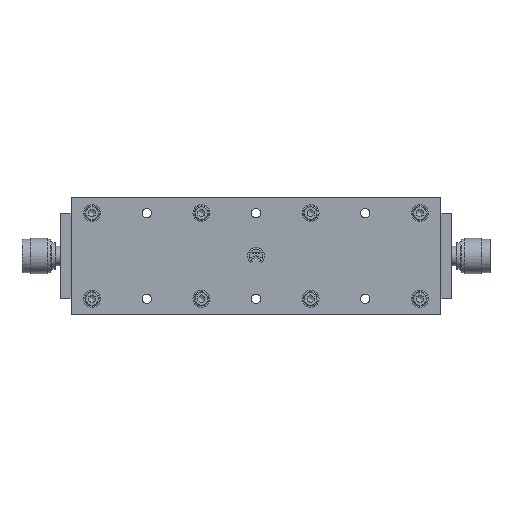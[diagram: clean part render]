
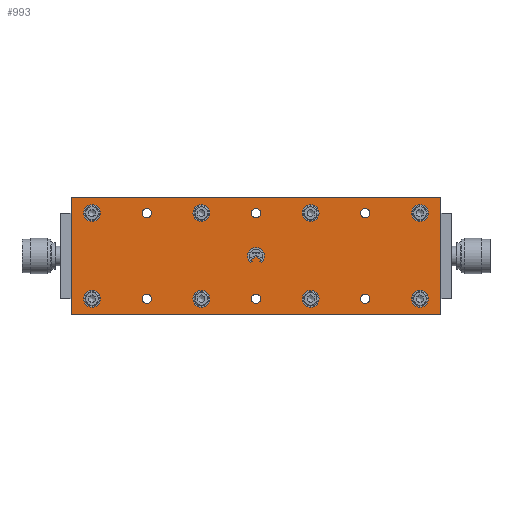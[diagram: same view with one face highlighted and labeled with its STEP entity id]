
A CAD part, top view. The second image highlights one B-rep face of the part: STEP entity #993.
In plain terms, the highlighted planar face has unit normal (0, 0, 1).
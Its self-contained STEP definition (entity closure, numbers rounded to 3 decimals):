
#993=ADVANCED_FACE('',(#2012,#2014,#2016,#2018,#2020,#2022,#2024,#2026,#2028,#2030,
#2032,#2034,#2036,#2038,#2040,#2042),#2044,.T.);
#2012=FACE_BOUND('',#2013,.T.);
#2013=EDGE_LOOP('',(#4179,#4180,#4181,#4182));
#2014=FACE_BOUND('',#2015,.T.);
#2015=EDGE_LOOP('',(#4183,#4184,#4185,#4186,#4187,#4188,#4189));
#2016=FACE_BOUND('',#2017,.T.);
#2017=EDGE_LOOP('',(#4190));
#2018=FACE_BOUND('',#2019,.T.);
#2019=EDGE_LOOP('',(#4191));
#2020=FACE_BOUND('',#2021,.T.);
#2021=EDGE_LOOP('',(#4192));
#2022=FACE_BOUND('',#2023,.T.);
#2023=EDGE_LOOP('',(#4193));
#2024=FACE_BOUND('',#2025,.T.);
#2025=EDGE_LOOP('',(#4194));
#2026=FACE_BOUND('',#2027,.T.);
#2027=EDGE_LOOP('',(#4195));
#2028=FACE_BOUND('',#2029,.T.);
#2029=EDGE_LOOP('',(#4196));
#2030=FACE_BOUND('',#2031,.T.);
#2031=EDGE_LOOP('',(#4197));
#2032=FACE_BOUND('',#2033,.T.);
#2033=EDGE_LOOP('',(#4198));
#2034=FACE_BOUND('',#2035,.T.);
#2035=EDGE_LOOP('',(#4199));
#2036=FACE_BOUND('',#2037,.T.);
#2037=EDGE_LOOP('',(#4200));
#2038=FACE_BOUND('',#2039,.T.);
#2039=EDGE_LOOP('',(#4201));
#2040=FACE_BOUND('',#2041,.T.);
#2041=EDGE_LOOP('',(#4202));
#2042=FACE_BOUND('',#2043,.T.);
#2043=EDGE_LOOP('',(#4203));
#2044=PLANE('',#2045);
#2045=AXIS2_PLACEMENT_3D('',#2046,#2047,#2048);
#2046=CARTESIAN_POINT('',(-35.,-110.,12.5));
#2047=DIRECTION('',(0.,0.,1.));
#2048=DIRECTION('',(1.,0.,0.));
#4179=ORIENTED_EDGE('',*,*,#4960,.F.);
#4180=ORIENTED_EDGE('',*,*,#4961,.T.);
#4181=ORIENTED_EDGE('',*,*,#4962,.T.);
#4182=ORIENTED_EDGE('',*,*,#4963,.F.);
#4183=ORIENTED_EDGE('',*,*,#4964,.T.);
#4184=ORIENTED_EDGE('',*,*,#4965,.T.);
#4185=ORIENTED_EDGE('',*,*,#4966,.T.);
#4186=ORIENTED_EDGE('',*,*,#4967,.T.);
#4187=ORIENTED_EDGE('',*,*,#4968,.T.);
#4188=ORIENTED_EDGE('',*,*,#4969,.T.);
#4189=ORIENTED_EDGE('',*,*,#4970,.T.);
#4190=ORIENTED_EDGE('',*,*,#4971,.T.);
#4191=ORIENTED_EDGE('',*,*,#4972,.T.);
#4192=ORIENTED_EDGE('',*,*,#4973,.T.);
#4193=ORIENTED_EDGE('',*,*,#4974,.T.);
#4194=ORIENTED_EDGE('',*,*,#4975,.T.);
#4195=ORIENTED_EDGE('',*,*,#4976,.T.);
#4196=ORIENTED_EDGE('',*,*,#4977,.T.);
#4197=ORIENTED_EDGE('',*,*,#4978,.T.);
#4198=ORIENTED_EDGE('',*,*,#4979,.T.);
#4199=ORIENTED_EDGE('',*,*,#4980,.T.);
#4200=ORIENTED_EDGE('',*,*,#4981,.T.);
#4201=ORIENTED_EDGE('',*,*,#4982,.T.);
#4202=ORIENTED_EDGE('',*,*,#4983,.T.);
#4203=ORIENTED_EDGE('',*,*,#4984,.T.);
#4960=EDGE_CURVE('',#5504,#5505,#5506,.T.);
#4961=EDGE_CURVE('',#5504,#5507,#5508,.T.);
#4962=EDGE_CURVE('',#5507,#5509,#5510,.T.);
#4963=EDGE_CURVE('',#5505,#5509,#5511,.T.);
#4964=EDGE_CURVE('',#5512,#5513,#5514,.F.);
#4965=EDGE_CURVE('',#5513,#5515,#5516,.F.);
#4966=EDGE_CURVE('',#5515,#5517,#5518,.F.);
#4967=EDGE_CURVE('',#5517,#5519,#5520,.F.);
#4968=EDGE_CURVE('',#5519,#5521,#5522,.F.);
#4969=EDGE_CURVE('',#5521,#5523,#5524,.F.);
#4970=EDGE_CURVE('',#5523,#5512,#5525,.F.);
#4971=EDGE_CURVE('',#5526,#5526,#5527,.F.);
#4972=EDGE_CURVE('',#5528,#5528,#5529,.F.);
#4973=EDGE_CURVE('',#5530,#5530,#5531,.F.);
#4974=EDGE_CURVE('',#5532,#5532,#5533,.F.);
#4975=EDGE_CURVE('',#5534,#5534,#5535,.F.);
#4976=EDGE_CURVE('',#5536,#5536,#5537,.F.);
#4977=EDGE_CURVE('',#5538,#5538,#5539,.F.);
#4978=EDGE_CURVE('',#5540,#5540,#5541,.F.);
#4979=EDGE_CURVE('',#5542,#5542,#5543,.F.);
#4980=EDGE_CURVE('',#5544,#5544,#5545,.F.);
#4981=EDGE_CURVE('',#5546,#5546,#5547,.F.);
#4982=EDGE_CURVE('',#5548,#5548,#5549,.F.);
#4983=EDGE_CURVE('',#5550,#5550,#5551,.F.);
#4984=EDGE_CURVE('',#5552,#5552,#5553,.F.);
#5504=VERTEX_POINT('',#6611);
#5505=VERTEX_POINT('',#6612);
#5506=LINE('',#6613,#6614);
#5507=VERTEX_POINT('',#6616);
#5508=LINE('',#6617,#6618);
#5509=VERTEX_POINT('',#6620);
#5510=LINE('',#6621,#6622);
#5511=LINE('',#6624,#6625);
#5512=VERTEX_POINT('',#6627);
#5513=VERTEX_POINT('',#6628);
#5514=CIRCLE('',#6629,4.);
#5515=VERTEX_POINT('',#6633);
#5516=LINE('',#6634,#6635);
#5517=VERTEX_POINT('',#6637);
#5518=CIRCLE('',#6638,5.);
#5519=VERTEX_POINT('',#6642);
#5520=LINE('',#6643,#6644);
#5521=VERTEX_POINT('',#6646);
#5522=CIRCLE('',#6647,4.);
#5523=VERTEX_POINT('',#6651);
#5524=LINE('',#6652,#6653);
#5525=LINE('',#6655,#6656);
#5526=VERTEX_POINT('',#6658);
#5527=CIRCLE('',#6659,5.);
#5528=VERTEX_POINT('',#6663);
#5529=CIRCLE('',#6664,5.);
#5530=VERTEX_POINT('',#6668);
#5531=CIRCLE('',#6669,5.);
#5532=VERTEX_POINT('',#6673);
#5533=CIRCLE('',#6674,5.);
#5534=VERTEX_POINT('',#6678);
#5535=CIRCLE('',#6679,5.);
#5536=VERTEX_POINT('',#6683);
#5537=CIRCLE('',#6684,5.);
#5538=VERTEX_POINT('',#6688);
#5539=CIRCLE('',#6689,5.);
#5540=VERTEX_POINT('',#6693);
#5541=CIRCLE('',#6694,5.);
#5542=VERTEX_POINT('',#6698);
#5543=CIRCLE('',#6699,2.75);
#5544=VERTEX_POINT('',#6703);
#5545=CIRCLE('',#6704,2.75);
#5546=VERTEX_POINT('',#6708);
#5547=CIRCLE('',#6709,2.75);
#5548=VERTEX_POINT('',#6713);
#5549=CIRCLE('',#6714,2.75);
#5550=VERTEX_POINT('',#6718);
#5551=CIRCLE('',#6719,2.75);
#5552=VERTEX_POINT('',#6723);
#5553=CIRCLE('',#6724,2.75);
#6611=CARTESIAN_POINT('',(-34.9,-109.9,12.5));
#6612=CARTESIAN_POINT('',(-34.9,109.9,12.5));
#6613=CARTESIAN_POINT('',(-34.9,-109.9,12.5));
#6614=VECTOR('',#6615,1.);
#6615=DIRECTION('',(0.,1.,0.));
#6616=CARTESIAN_POINT('',(34.9,-109.9,12.5));
#6617=CARTESIAN_POINT('',(-34.9,-109.9,12.5));
#6618=VECTOR('',#6619,1.);
#6619=DIRECTION('',(1.,0.,0.));
#6620=CARTESIAN_POINT('',(34.9,109.9,12.5));
#6621=CARTESIAN_POINT('',(34.9,-109.9,12.5));
#6622=VECTOR('',#6623,1.);
#6623=DIRECTION('',(0.,1.,0.));
#6624=CARTESIAN_POINT('',(-34.9,109.9,12.5));
#6625=VECTOR('',#6626,1.);
#6626=DIRECTION('',(1.,0.,0.));
#6627=CARTESIAN_POINT('',(-2.417,3.187,12.5));
#6628=CARTESIAN_POINT('',(-3.345,2.194,12.5));
#6629=AXIS2_PLACEMENT_3D('',#6630,#6631,#6632);
#6630=CARTESIAN_POINT('',(0.,0.,12.5));
#6631=DIRECTION('',(0.,0.,-1.));
#6632=DIRECTION('',(-0.836,0.548,0.));
#6633=CARTESIAN_POINT('',(-3.891,3.14,12.5));
#6634=CARTESIAN_POINT('',(-3.891,3.14,12.5));
#6635=VECTOR('',#6636,1.);
#6636=DIRECTION('',(0.5,-0.866,0.));
#6637=CARTESIAN_POINT('',(-3.891,-3.14,12.5));
#6638=AXIS2_PLACEMENT_3D('',#6639,#6640,#6641);
#6639=CARTESIAN_POINT('',(0.,0.,12.5));
#6640=DIRECTION('',(0.,0.,1.));
#6641=DIRECTION('',(-0.778,-0.628,0.));
#6642=CARTESIAN_POINT('',(-3.345,-2.194,12.5));
#6643=CARTESIAN_POINT('',(-3.345,-2.194,12.5));
#6644=VECTOR('',#6645,1.);
#6645=DIRECTION('',(-0.5,-0.866,0.));
#6646=CARTESIAN_POINT('',(-2.417,-3.187,12.5));
#6647=AXIS2_PLACEMENT_3D('',#6648,#6649,#6650);
#6648=CARTESIAN_POINT('',(0.,0.,12.5));
#6649=DIRECTION('',(0.,0.,-1.));
#6650=DIRECTION('',(-0.604,-0.797,0.));
#6651=CARTESIAN_POINT('',(-0.577,0.,12.5));
#6652=CARTESIAN_POINT('',(-0.577,0.,12.5));
#6653=VECTOR('',#6654,1.);
#6654=DIRECTION('',(-0.5,-0.866,0.));
#6655=CARTESIAN_POINT('',(-2.417,3.187,12.5));
#6656=VECTOR('',#6657,1.);
#6657=DIRECTION('',(0.5,-0.866,0.));
#6658=CARTESIAN_POINT('',(20.5,-97.5,12.5));
#6659=AXIS2_PLACEMENT_3D('',#6660,#6661,#6662);
#6660=CARTESIAN_POINT('',(25.5,-97.5,12.5));
#6661=DIRECTION('',(0.,0.,1.));
#6662=DIRECTION('',(-1.,0.,0.));
#6663=CARTESIAN_POINT('',(-30.5,-97.5,12.5));
#6664=AXIS2_PLACEMENT_3D('',#6665,#6666,#6667);
#6665=CARTESIAN_POINT('',(-25.5,-97.5,12.5));
#6666=DIRECTION('',(0.,0.,1.));
#6667=DIRECTION('',(-1.,0.,0.));
#6668=CARTESIAN_POINT('',(-30.5,-32.5,12.5));
#6669=AXIS2_PLACEMENT_3D('',#6670,#6671,#6672);
#6670=CARTESIAN_POINT('',(-25.5,-32.5,12.5));
#6671=DIRECTION('',(0.,0.,1.));
#6672=DIRECTION('',(-1.,0.,0.));
#6673=CARTESIAN_POINT('',(20.5,-32.5,12.5));
#6674=AXIS2_PLACEMENT_3D('',#6675,#6676,#6677);
#6675=CARTESIAN_POINT('',(25.5,-32.5,12.5));
#6676=DIRECTION('',(0.,0.,1.));
#6677=DIRECTION('',(-1.,0.,0.));
#6678=CARTESIAN_POINT('',(-30.5,32.5,12.5));
#6679=AXIS2_PLACEMENT_3D('',#6680,#6681,#6682);
#6680=CARTESIAN_POINT('',(-25.5,32.5,12.5));
#6681=DIRECTION('',(0.,0.,1.));
#6682=DIRECTION('',(-1.,0.,0.));
#6683=CARTESIAN_POINT('',(20.5,32.5,12.5));
#6684=AXIS2_PLACEMENT_3D('',#6685,#6686,#6687);
#6685=CARTESIAN_POINT('',(25.5,32.5,12.5));
#6686=DIRECTION('',(0.,0.,1.));
#6687=DIRECTION('',(-1.,0.,0.));
#6688=CARTESIAN_POINT('',(20.5,97.5,12.5));
#6689=AXIS2_PLACEMENT_3D('',#6690,#6691,#6692);
#6690=CARTESIAN_POINT('',(25.5,97.5,12.5));
#6691=DIRECTION('',(0.,0.,1.));
#6692=DIRECTION('',(-1.,0.,0.));
#6693=CARTESIAN_POINT('',(-30.5,97.5,12.5));
#6694=AXIS2_PLACEMENT_3D('',#6695,#6696,#6697);
#6695=CARTESIAN_POINT('',(-25.5,97.5,12.5));
#6696=DIRECTION('',(0.,0.,1.));
#6697=DIRECTION('',(-1.,0.,0.));
#6698=CARTESIAN_POINT('',(-28.25,65.,12.5));
#6699=AXIS2_PLACEMENT_3D('',#6700,#6701,#6702);
#6700=CARTESIAN_POINT('',(-25.5,65.,12.5));
#6701=DIRECTION('',(0.,0.,1.));
#6702=DIRECTION('',(-1.,0.,0.));
#6703=CARTESIAN_POINT('',(22.75,65.,12.5));
#6704=AXIS2_PLACEMENT_3D('',#6705,#6706,#6707);
#6705=CARTESIAN_POINT('',(25.5,65.,12.5));
#6706=DIRECTION('',(0.,0.,1.));
#6707=DIRECTION('',(-1.,0.,0.));
#6708=CARTESIAN_POINT('',(-28.25,0.,12.5));
#6709=AXIS2_PLACEMENT_3D('',#6710,#6711,#6712);
#6710=CARTESIAN_POINT('',(-25.5,0.,12.5));
#6711=DIRECTION('',(0.,0.,1.));
#6712=DIRECTION('',(-1.,0.,0.));
#6713=CARTESIAN_POINT('',(22.75,0.,12.5));
#6714=AXIS2_PLACEMENT_3D('',#6715,#6716,#6717);
#6715=CARTESIAN_POINT('',(25.5,0.,12.5));
#6716=DIRECTION('',(0.,0.,1.));
#6717=DIRECTION('',(-1.,0.,0.));
#6718=CARTESIAN_POINT('',(-28.25,-65.,12.5));
#6719=AXIS2_PLACEMENT_3D('',#6720,#6721,#6722);
#6720=CARTESIAN_POINT('',(-25.5,-65.,12.5));
#6721=DIRECTION('',(0.,0.,1.));
#6722=DIRECTION('',(-1.,0.,0.));
#6723=CARTESIAN_POINT('',(22.75,-65.,12.5));
#6724=AXIS2_PLACEMENT_3D('',#6725,#6726,#6727);
#6725=CARTESIAN_POINT('',(25.5,-65.,12.5));
#6726=DIRECTION('',(0.,0.,1.));
#6727=DIRECTION('',(-1.,0.,0.));
